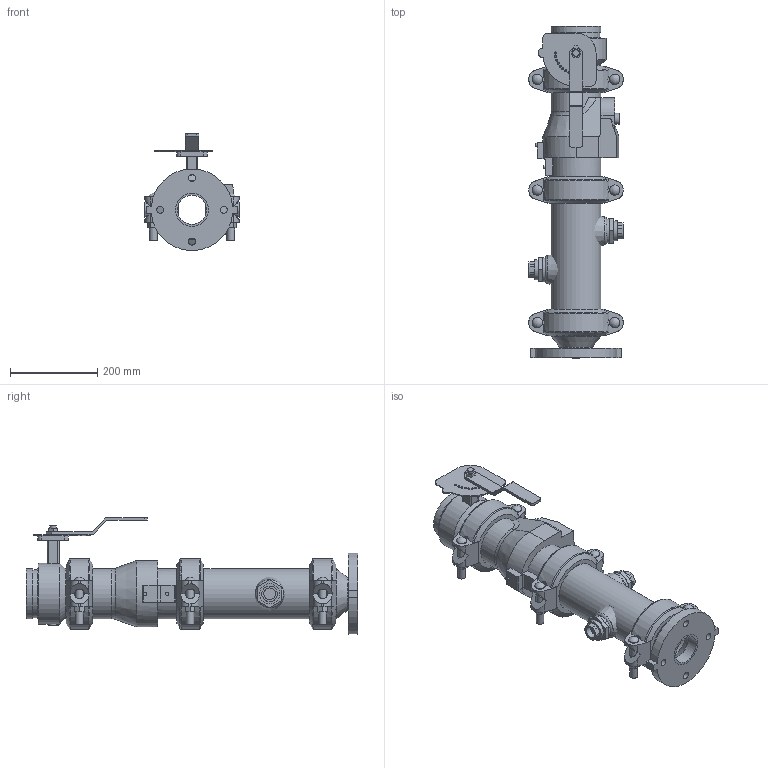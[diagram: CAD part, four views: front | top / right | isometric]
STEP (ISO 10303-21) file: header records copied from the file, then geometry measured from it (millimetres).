
FILE_DESCRIPTION(/* description */ ('VIC DVI PUMP DROP VERT S/390 (OGSxFLG)','CAx-IF Rec.Pracs.---Representation and Presentation of Product Manufacturing Information (PMI)---4.0---2014-10-13'),/* implementation_level */ '2;1');
FILE_NAME(/* name */ 'C:\Users\Vjadhav\AppData\Roaming\Autodesk\ApplicationPlugins\Back Up\Victaulic_IPS_Vertical DVI_PN10_Series 390 (OGSxFLG)\Victaulic_IPS_Vertical DVI_PN10_Series 390 (OGSxFLG)_04.0x02.5 (76.1) (100x65).stp',/* time_stamp */ '2020-11-09T17:50:08+05:00',/* author */ ('Vjadhav'),/* organization */ ('Victaulic'),/* preprocessor_version */ 'ST-DEVELOPER v17.2',/* originating_system */ 'Autodesk Inventor 2019',/* authorisation */ '');
FILE_SCHEMA (('AP242_MANAGED_MODEL_BASED_3D_ENGINEERING_MIM_LF { 1 0 10303 442 1 1 4 }'));
Length unit declared in the file: inch
Products named in the file (8): 390-04.0x02.5 (76.1); 741-02.5 (76.1); 050-04.0x02.5 (76.1); Pipe-04.0; 177N-04.0; 761-04.0; 716-04.0; 923-04.0x0.75
Assembly tree (10 placements, depth 2):
  390-04.0x02.5 (76.1)
    741-02.5 (76.1)
    050-04.0x02.5 (76.1)
    177N-04.0  x3
    Pipe-04.0
    761-04.0
    716-04.0
    923-04.0x0.75  x2
Bounding box: 215.9 x 762 x 268.38 mm (x, y, z)
Volume: 5902160.8 mm3; surface area: 1060184.7 mm2
Topology: 10 solids, 11 shells, 604 faces, 1619 edges, 1075 vertices
Faces by surface type: plane 355, cylinder 204, cone 20, torus 17, sphere 6, bspline 2
Full cylindrical faces by diameter (mm): 4.826 x10, 7.62 x2, 8.636 x4, 14.986 x2, 16.002 x4, 17.424 x6, 22.86 x1, 23.495 x6, 25.4 x1, 26.67 x2, 45.974 x4, 55.118 x1, 55.626 x2, 66.65 x1, 72.263 x1, 76.2 x3, 101.6 x3, 102.26 x3, 103.988 x1, 110.084 x7, 114.3 x19, 139.7 x1
Entity records: 12338 total; most frequent: CARTESIAN_POINT 2323, DIRECTION 2060, ORIENTED_EDGE 1894, EDGE_CURVE 947, AXIS2_PLACEMENT_3D 775, VERTEX_POINT 635, LINE 510, VECTOR 510
